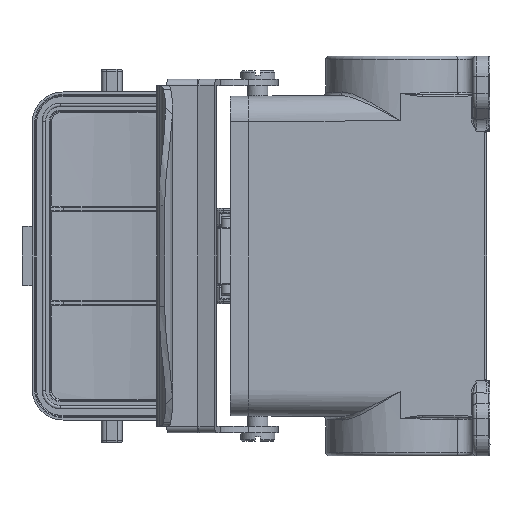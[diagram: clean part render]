
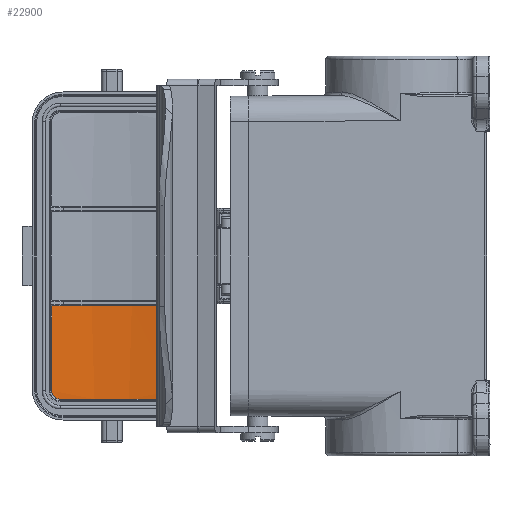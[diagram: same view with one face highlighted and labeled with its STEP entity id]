
A CAD part, left-side view. The second image highlights one B-rep face of the part: STEP entity #22900.
In plain terms, the highlighted cylindrical face has radius 123 mm (diameter 246 mm), a partial arc.
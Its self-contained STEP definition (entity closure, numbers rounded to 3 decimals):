
#187 = VERTEX_POINT ( 'NONE', #42590 ) ;
#273 = EDGE_CURVE ( 'NONE', #187, #36491, #41213, .T. ) ;
#740 = EDGE_CURVE ( 'NONE', #19149, #10546, #8744, .T. ) ;
#2143 = CARTESIAN_POINT ( 'NONE',  ( 45.76, 88.982, -40.94 ) ) ;
#3319 = LINE ( 'NONE', #9543, #35799 ) ;
#3828 = LINE ( 'NONE', #6649, #35765 ) ;
#4247 = B_SPLINE_CURVE_WITH_KNOTS ( 'NONE', 3,
 ( #29133, #21957, #8609, #32495, #5227, #35684, #38739, #39037, #18687, #42100 ),
 .UNSPECIFIED., .F., .F.,
 ( 4, 2, 2, 2, 4 ),
 ( 0., 0.25, 0.5, 0.75, 1. ),
 .UNSPECIFIED. ) ;
#5227 = CARTESIAN_POINT ( 'NONE',  ( 45.826, 55.321, -41.407 ) ) ;
#5297 = DIRECTION ( 'NONE',  ( 0., 0., 1. ) ) ;
#5730 = CARTESIAN_POINT ( 'NONE',  ( -76.05, 71.915, 42.4 ) ) ;
#6469 = ORIENTED_EDGE ( 'NONE', *, *, #7906, .T. ) ;
#6649 = CARTESIAN_POINT ( 'NONE',  ( 45.688, 89.487, 39.6 ) ) ;
#6721 = AXIS2_PLACEMENT_3D ( 'NONE', #30868, #7541, #27368 ) ;
#6784 = DIRECTION ( 'NONE',  ( 0., 0., -1. ) ) ;
#7541 = DIRECTION ( 'NONE',  ( 0., 0., 1. ) ) ;
#7906 = EDGE_CURVE ( 'NONE', #35207, #187, #21834, .T. ) ;
#8609 = CARTESIAN_POINT ( 'NONE',  ( 45.943, 56.205, -41.838 ) ) ;
#8744 = CIRCLE ( 'NONE', #6721, 123. ) ;
#8921 = CARTESIAN_POINT ( 'NONE',  ( 45.863, 88.238, -41.586 ) ) ;
#9543 = CARTESIAN_POINT ( 'NONE',  ( 45.688, 54.344, -39.593 ) ) ;
#9975 = DIRECTION ( 'NONE',  ( 0., 0., -1. ) ) ;
#10500 = EDGE_CURVE ( 'NONE', #24035, #19149, #3319, .T. ) ;
#10546 = VERTEX_POINT ( 'NONE', #13164 ) ;
#13164 = CARTESIAN_POINT ( 'NONE',  ( 45.688, 89.487, -14.6 ) ) ;
#15457 = CARTESIAN_POINT ( 'NONE',  ( 45.734, 89.165, -40.668 ) ) ;
#16812 = DIRECTION ( 'NONE',  ( -1., 0., 0. ) ) ;
#17565 = ORIENTED_EDGE ( 'NONE', *, *, #10500, .T. ) ;
#17879 = EDGE_CURVE ( 'NONE', #36491, #24035, #4247, .T. ) ;
#18243 = CARTESIAN_POINT ( 'NONE',  ( 45.688, 89.487, -39.734 ) ) ;
#18687 = CARTESIAN_POINT ( 'NONE',  ( 45.688, 54.344, -39.733 ) ) ;
#19149 = VERTEX_POINT ( 'NONE', #42766 ) ;
#19540 = ORIENTED_EDGE ( 'NONE', *, *, #273, .T. ) ;
#21022 = AXIS2_PLACEMENT_3D ( 'NONE', #5730, #5297, #42319 ) ;
#21834 = B_SPLINE_CURVE_WITH_KNOTS ( 'NONE', 3,
 ( #35556, #18243, #22263, #15457, #2143, #25637, #8921, #32377, #28725, #35261 ),
 .UNSPECIFIED., .F., .F.,
 ( 4, 2, 2, 2, 4 ),
 ( 0., 0.25, 0.5, 0.75, 1. ),
 .UNSPECIFIED. ) ;
#21844 = FACE_OUTER_BOUND ( 'NONE', #35521, .T. ) ;
#21957 = CARTESIAN_POINT ( 'NONE',  ( 45.983, 56.522, -41.9 ) ) ;
#22263 = CARTESIAN_POINT ( 'NONE',  ( 45.698, 89.422, -40.055 ) ) ;
#22900 = ADVANCED_FACE ( 'NONE', ( #21844 ), #38028, .F. ) ;
#24035 = VERTEX_POINT ( 'NONE', #39386 ) ;
#24188 = ORIENTED_EDGE ( 'NONE', *, *, #740, .T. ) ;
#24435 = ORIENTED_EDGE ( 'NONE', *, *, #26695, .T. ) ;
#25637 = CARTESIAN_POINT ( 'NONE',  ( 45.826, 88.511, -41.406 ) ) ;
#26544 = CARTESIAN_POINT ( 'NONE',  ( -76.05, 71.915, -41.9 ) ) ;
#26695 = EDGE_CURVE ( 'NONE', #10546, #35207, #3828, .T. ) ;
#27368 = DIRECTION ( 'NONE',  ( 0., -1., 0. ) ) ;
#28725 = CARTESIAN_POINT ( 'NONE',  ( 45.983, 87.308, -41.9 ) ) ;
#29133 = CARTESIAN_POINT ( 'NONE',  ( 46.024, 56.854, -41.9 ) ) ;
#29280 = CARTESIAN_POINT ( 'NONE',  ( 45.688, 89.487, -39.4 ) ) ;
#29770 = AXIS2_PLACEMENT_3D ( 'NONE', #26544, #9975, #16812 ) ;
#30854 = ORIENTED_EDGE ( 'NONE', *, *, #17879, .T. ) ;
#30868 = CARTESIAN_POINT ( 'NONE',  ( -76.05, 71.915, -14.6 ) ) ;
#32377 = CARTESIAN_POINT ( 'NONE',  ( 45.943, 87.627, -41.837 ) ) ;
#32495 = CARTESIAN_POINT ( 'NONE',  ( 45.862, 55.591, -41.586 ) ) ;
#35207 = VERTEX_POINT ( 'NONE', #29280 ) ;
#35261 = CARTESIAN_POINT ( 'NONE',  ( 46.024, 86.977, -41.9 ) ) ;
#35521 = EDGE_LOOP ( 'NONE', ( #19540, #30854, #17565, #24188, #24435, #6469 ) ) ;
#35556 = CARTESIAN_POINT ( 'NONE',  ( 45.688, 89.487, -39.4 ) ) ;
#35684 = CARTESIAN_POINT ( 'NONE',  ( 45.76, 54.847, -40.938 ) ) ;
#35765 = VECTOR ( 'NONE', #6784, 1000. ) ;
#35799 = VECTOR ( 'NONE', #43167, 1000. ) ;
#36491 = VERTEX_POINT ( 'NONE', #43358 ) ;
#38028 = CYLINDRICAL_SURFACE ( 'NONE', #21022, 123. ) ;
#38739 = CARTESIAN_POINT ( 'NONE',  ( 45.734, 54.666, -40.669 ) ) ;
#39037 = CARTESIAN_POINT ( 'NONE',  ( 45.698, 54.408, -40.054 ) ) ;
#39386 = CARTESIAN_POINT ( 'NONE',  ( 45.688, 54.344, -39.4 ) ) ;
#41213 = CIRCLE ( 'NONE', #29770, 123. ) ;
#42100 = CARTESIAN_POINT ( 'NONE',  ( 45.688, 54.344, -39.4 ) ) ;
#42319 = DIRECTION ( 'NONE',  ( 0., -1., 0. ) ) ;
#42590 = CARTESIAN_POINT ( 'NONE',  ( 46.024, 86.977, -41.9 ) ) ;
#42766 = CARTESIAN_POINT ( 'NONE',  ( 45.688, 54.344, -14.6 ) ) ;
#43167 = DIRECTION ( 'NONE',  ( 0., 0., 1. ) ) ;
#43358 = CARTESIAN_POINT ( 'NONE',  ( 46.024, 56.854, -41.9 ) ) ;
